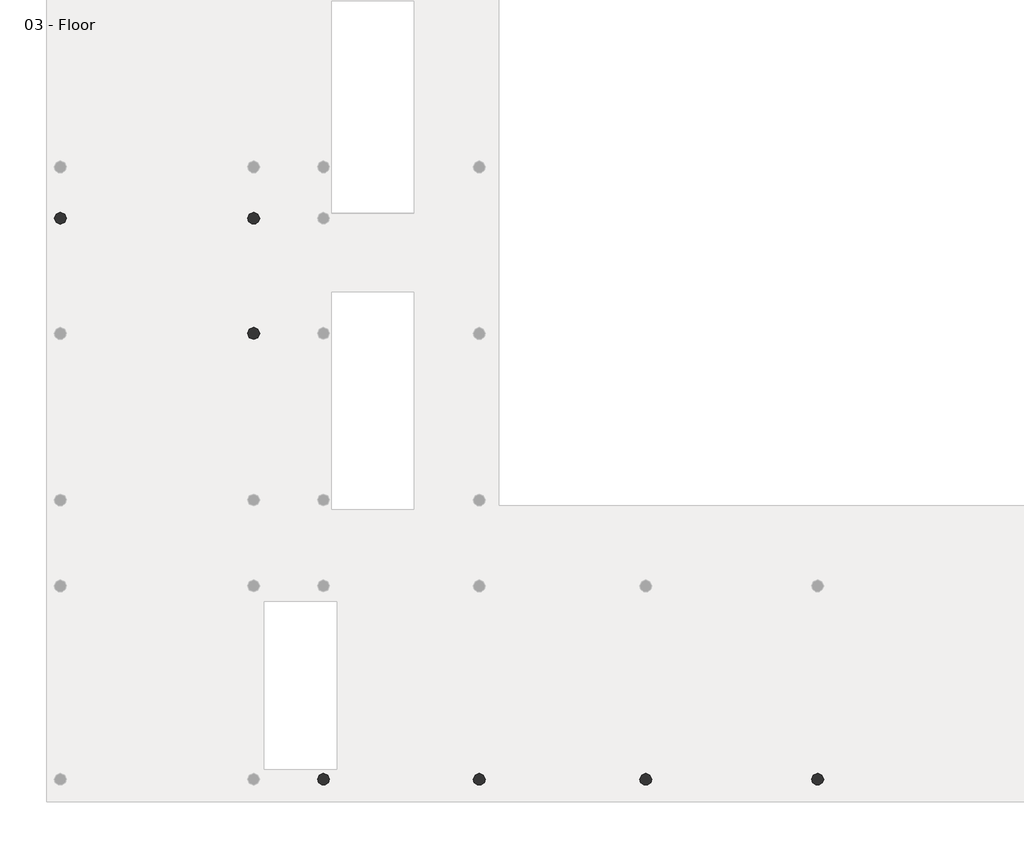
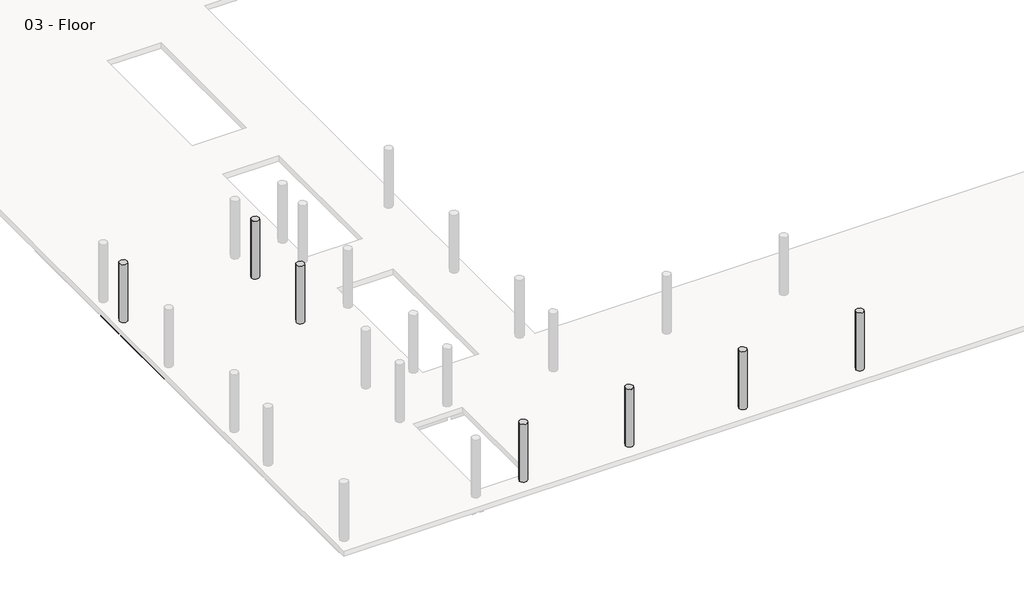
# One storey, part 2 of 8: 13 beams, 7 columns.
"""IFC4 building model written with IfcOpenShell, lengths in millimetres."""

from ifc_helpers import new_model, si_unit, point, frame, frame_2d, origin, place, context, project, spatial, polyline, circle_curve, trimmed, segment, composite_curve, outline, extrude, element, save
from ifc_brep_helpers import plane_surface, cylinder_surface, revolved_surface, advanced_brep

model = new_model("IFC4")

# Units and contexts
model_context = context("Model", 3, world=origin())
ifc_project = project(units=[si_unit("LENGTHUNIT", "METRE", prefix="MILLI")], contexts=[model_context])

# Site, building, storey
site = spatial("IfcSite", under=ifc_project)
building = spatial("IfcBuilding", under=site)
storey = spatial("IfcBuildingStorey", under=building, Name="03 - Floor", Elevation=7600.0)

# Beams
placement = place(None, origin())
element("IfcBeam", 1, ObjectType="M_Concrete-Rectangular Beam : 400 x 800mm", at=placement, inside=storey, context=model_context, shape_type="AdvancedBrep", body=[
    advanced_brep(
    [(-9401.9994416, 426.6609793, 6800.0), (-9401.9994416, -1310.2837394, 6800.0), (-9401.9994416, -1310.2837394, 7300.0), (-9401.9994416, 426.6609793, 7300.0), (-9098.921801, 329.7386199, 6800.0), (-9001.9994416, 329.7386199, 6800.0), (-9001.9994416, -1213.3613801, 6800.0), (-9001.9994416, -1310.2837394, 6800.0), (-9001.9994416, 329.7386199, 7300.0), (-9001.9994416, -1213.3613801, 7300.0), (-9001.9994416, -1310.2837394, 7300.0), (-9098.921801, 329.7386199, 7300.0)],
    [
        (0, 1),
        (1, 2),
        (2, 3),
        (3, 0),
        (0, 4, circle_curve(frame((-9201.9994416, 529.7386199, 6800.0), z_axis=(0.0, 0.0, 1.0), x_axis=(-1.0, 0.0, 0.0)), 225.0)),
        (4, 5),
        (5, 6),
        (6, 7),
        (7, 1, circle_curve(frame((-9201.9994416, -1413.3613801, 6800.0), z_axis=(0.0, 0.0, 1.0), x_axis=(-1.0, 0.0, 0.0)), 225.0)),
        (5, 8),
        (8, 9),
        (9, 10),
        (10, 7),
        (3, 11, circle_curve(frame((-9201.9994416, 529.7386199, 7300.0), z_axis=(0.0, 0.0, 1.0), x_axis=(-1.0, 0.0, 0.0)), 225.0)),
        (11, 4),
        (11, 8),
        (10, 2, circle_curve(frame((-9201.9994416, -1413.3613801, 7300.0), z_axis=(0.0, 0.0, 1.0), x_axis=(-1.0, 0.0, 0.0)), 225.0)),
    ],
    [
        plane_surface(frame((-9401.9994416, -1175.6613801, 7200.0), z_axis=(-1.0, 0.0, 0.0), x_axis=(0.0, 0.0, -1.0))),
        plane_surface(frame((-9201.9994416, -1175.6613801, 6800.0), z_axis=(0.0, 0.0, -1.0), x_axis=(1.0, 0.0, 0.0))),
        plane_surface(frame((-9001.9994416, -1175.6613801, 7200.0), z_axis=(1.0, 0.0, 0.0), x_axis=(0.0, 0.0, 1.0))),
        revolved_surface(polyline([(-9426.9994416, 529.7386199, 7300.0), (-9426.9994416, 529.7386199, 6800.0)]), (-9201.9994416, 529.7386199, 3800.0), (0.0, 0.0, 1.0)),
        plane_surface(frame((-8964.2994416, 329.7386199, 6800.0), z_axis=(0.0, 1.0, 0.0), x_axis=(1.0, 0.0, 0.0))),
        revolved_surface(polyline([(-9426.9994416, -1413.3613801, 7300.0), (-9426.9994416, -1413.3613801, 6800.0)]), (-9201.9994416, -1413.3613801, 3800.0), (0.0, 0.0, 1.0)),
        plane_surface(frame((24268.8999097, 30514.0407562, 7300.0), z_axis=(0.0, 0.0, 1.0), x_axis=(0.0, -1.0, 0.0))),
    ],
    [
        (0, [[1, 2, 3, 4]]),
        (1, [[5, 6, 7, 8, 9, -1]]),
        (2, [[-8, -7, 10, 11, 12, 13]]),
        (3, [[-5, -4, 14, 15]]),
        (4, [[-6, -15, 16, -10]]),
        (5, [[-9, -13, 17, -2]]),
        (6, [[-3, -17, -12, -11, -16, -14]]),
    ],
),
])
element("IfcBeam", 2, ObjectType="M_Concrete-Rectangular Beam : 400 x 800mm", at=placement, inside=storey, context=model_context, shape_type="AdvancedBrep", body=[
    advanced_brep(
    [(-9401.9994416, -1516.4390207, 6800.0), (-9401.9994416, -5666.3837394, 6800.0), (-9401.9994416, -5666.3837394, 7300.0), (-9401.9994416, -1516.4390207, 7300.0), (-9001.9994416, -5666.3837394, 6800.0), (-9098.921801, -1613.3613801, 6800.0), (-9001.9994416, -1613.3613801, 6800.0), (-9001.9994416, -5569.4613801, 6800.0), (-9001.9994416, -1613.3613801, 7300.0), (-9001.9994416, -5569.4613801, 7300.0), (-9001.9994416, -5666.3837394, 7300.0), (-9098.921801, -1613.3613801, 7300.0)],
    [
        (0, 1),
        (1, 2),
        (2, 3),
        (3, 0),
        (4, 1, circle_curve(frame((-9201.9994416, -5769.4613801, 6800.0), z_axis=(0.0, 0.0, 1.0), x_axis=(-1.0, 0.0, 0.0)), 225.0)),
        (0, 5, circle_curve(frame((-9201.9994416, -1413.3613801, 6800.0), z_axis=(0.0, 0.0, 1.0), x_axis=(-1.0, 0.0, 0.0)), 225.0)),
        (5, 6),
        (6, 7),
        (7, 4),
        (6, 8),
        (8, 9),
        (9, 10),
        (10, 4),
        (10, 2, circle_curve(frame((-9201.9994416, -5769.4613801, 7300.0), z_axis=(0.0, 0.0, 1.0), x_axis=(-1.0, 0.0, 0.0)), 225.0)),
        (5, 11),
        (11, 8),
        (3, 11, circle_curve(frame((-9201.9994416, -1413.3613801, 7300.0), z_axis=(0.0, 0.0, 1.0), x_axis=(-1.0, 0.0, 0.0)), 225.0)),
    ],
    [
        plane_surface(frame((-9401.9994416, -5531.7613801, 7200.0), z_axis=(-1.0, 0.0, 0.0), x_axis=(0.0, 0.0, -1.0))),
        plane_surface(frame((-9201.9994416, -5531.7613801, 6800.0), z_axis=(0.0, 0.0, -1.0), x_axis=(1.0, 0.0, 0.0))),
        plane_surface(frame((-9001.9994416, -5531.7613801, 7200.0), z_axis=(1.0, 0.0, 0.0), x_axis=(0.0, 0.0, 1.0))),
        revolved_surface(polyline([(-9426.9994416, -5769.4613801, 7300.0), (-9426.9994416, -5769.4613801, 6800.0)]), (-9201.9994416, -5769.4613801, 3800.0), (0.0, 0.0, 1.0)),
        plane_surface(frame((-8964.2994416, -1613.3613801, 6800.0), z_axis=(0.0, 1.0, 0.0), x_axis=(1.0, 0.0, 0.0))),
        revolved_surface(polyline([(-9426.9994416, -1413.3613801, 7300.0), (-9426.9994416, -1413.3613801, 6800.0)]), (-9201.9994416, -1413.3613801, 3800.0), (0.0, 0.0, 1.0)),
        plane_surface(frame((24268.8999097, 30514.0407562, 7300.0), z_axis=(0.0, 0.0, 1.0), x_axis=(0.0, -1.0, 0.0))),
    ],
    [
        (0, [[1, 2, 3, 4]]),
        (1, [[5, -1, 6, 7, 8, 9]]),
        (2, [[-9, -8, 10, 11, 12, 13]]),
        (3, [[-5, -13, 14, -2]]),
        (4, [[-7, 15, 16, -10]]),
        (5, [[-6, -4, 17, -15]]),
        (6, [[-3, -14, -12, -11, -16, -17]]),
    ],
),
])
element("IfcBeam", 3, ObjectType="M_Concrete-Rectangular Beam : 400 x 800mm", at=placement, inside=storey, context=model_context, shape_type="AdvancedBrep", body=[
    advanced_brep(
    [(6447.6005584, -15422.9390207, 6800.0), (6447.6005584, -15519.8613801, 6800.0), (6447.6005584, -22435.0613801, 6800.0), (6447.6005584, -22531.9837394, 6800.0), (6447.6005584, -22531.9837394, 7300.0), (6447.6005584, -22435.0613801, 7300.0), (6447.6005584, -15519.8613801, 7300.0), (6447.6005584, -15422.9390207, 7300.0), (6750.678199, -15519.8613801, 6800.0), (6847.6005584, -15519.8613801, 6800.0), (6847.6005584, -22435.0613801, 6800.0), (6847.6005584, -22531.9837394, 6800.0), (6847.6005584, -15519.8613801, 7300.0), (6847.6005584, -22435.0613801, 7300.0), (6847.6005584, -22531.9837394, 7300.0), (6750.678199, -15519.8613801, 7300.0)],
    [
        (0, 1),
        (1, 2),
        (2, 3),
        (3, 4),
        (4, 5),
        (5, 6),
        (6, 7),
        (7, 0),
        (0, 8, circle_curve(frame((6647.6005584, -15319.8613801, 6800.0), z_axis=(0.0, 0.0, 1.0), x_axis=(-1.0, 0.0, 0.0)), 225.0)),
        (8, 9),
        (9, 10),
        (10, 11),
        (11, 3, circle_curve(frame((6647.6005584, -22635.0613801, 6800.0), z_axis=(0.0, 0.0, 1.0), x_axis=(-1.0, 0.0, 0.0)), 225.0)),
        (9, 12),
        (12, 13),
        (13, 14),
        (14, 11),
        (7, 15, circle_curve(frame((6647.6005584, -15319.8613801, 7300.0), z_axis=(0.0, 0.0, 1.0), x_axis=(-1.0, 0.0, 0.0)), 225.0)),
        (15, 8),
        (15, 12),
        (14, 4, circle_curve(frame((6647.6005584, -22635.0613801, 7300.0), z_axis=(0.0, 0.0, 1.0), x_axis=(-1.0, 0.0, 0.0)), 225.0)),
    ],
    [
        plane_surface(frame((6447.6005584, -22397.3613801, 7600.0), z_axis=(-1.0, 0.0, 0.0), x_axis=(0.0, 1.0, 0.0))),
        plane_surface(frame((6447.6005584, -22397.3613801, 6800.0), z_axis=(0.0, 0.0, -1.0), x_axis=(0.0, 1.0, 0.0))),
        plane_surface(frame((6847.6005584, -22397.3613801, 6800.0), z_axis=(1.0, 0.0, 0.0), x_axis=(0.0, 1.0, 0.0))),
        revolved_surface(polyline([(6422.6005584, -15319.8613801, 7300.0), (6422.6005584, -15319.8613801, 6800.0)]), (6647.6005584, -15319.8613801, 3800.0), (0.0, 0.0, 1.0)),
        plane_surface(frame((6885.3005584, -15519.8613801, 7200.0), z_axis=(0.0, 1.0, 0.0), x_axis=(0.0, 0.0, 1.0))),
        revolved_surface(polyline([(6422.6005584, -22635.0613801, 7300.0), (6422.6005584, -22635.0613801, 6800.0)]), (6647.6005584, -22635.0613801, 3800.0), (0.0, 0.0, 1.0)),
        plane_surface(frame((24268.8999097, 30514.0407562, 7300.0), z_axis=(0.0, 0.0, 1.0), x_axis=(0.0, -1.0, 0.0))),
    ],
    [
        (0, [[1, 2, 3, 4, 5, 6, 7, 8]]),
        (1, [[9, 10, 11, 12, 13, -3, -2, -1]]),
        (2, [[-12, -11, 14, 15, 16, 17]]),
        (3, [[-9, -8, 18, 19]]),
        (4, [[-10, -19, 20, -14]]),
        (5, [[-13, -17, 21, -4]]),
        (6, [[-7, -6, -5, -21, -16, -15, -20, -18]]),
    ],
),
])
element("IfcBeam", 4, ObjectType="M_Concrete-Rectangular Beam : 400 x 800mm", at=placement, inside=storey, context=model_context, shape_type="AdvancedBrep", body=[
    advanced_brep(
    [(12746.8005584, -15422.9390207, 6800.0), (12746.8005584, -15519.8613801, 6800.0), (12746.8005584, -22435.0613801, 6800.0), (12746.8005584, -22531.9837394, 6800.0), (12746.8005584, -22531.9837394, 7300.0), (12746.8005584, -22435.0613801, 7300.0), (12746.8005584, -15519.8613801, 7300.0), (12746.8005584, -15422.9390207, 7300.0), (13146.8005584, -15422.9390207, 6800.0), (13146.8005584, -15519.8613801, 6800.0), (13146.8005584, -22435.0613801, 6800.0), (13146.8005584, -22531.9837394, 6800.0), (13146.8005584, -15422.9390207, 7300.0), (13146.8005584, -15519.8613801, 7300.0), (13146.8005584, -22435.0613801, 7300.0), (13146.8005584, -22531.9837394, 7300.0)],
    [
        (0, 1),
        (1, 2),
        (2, 3),
        (3, 4),
        (4, 5),
        (5, 6),
        (6, 7),
        (7, 0),
        (0, 8, circle_curve(frame((12946.8005584, -15319.8613801, 6800.0), z_axis=(0.0, 0.0, 1.0), x_axis=(-1.0, 0.0, 0.0)), 225.0)),
        (8, 9),
        (9, 10),
        (10, 11),
        (11, 3, circle_curve(frame((12946.8005584, -22635.0613801, 6800.0), z_axis=(0.0, 0.0, 1.0), x_axis=(-1.0, 0.0, 0.0)), 225.0)),
        (8, 12),
        (12, 13),
        (13, 14),
        (14, 15),
        (15, 11),
        (7, 12, circle_curve(frame((12946.8005584, -15319.8613801, 7300.0), z_axis=(0.0, 0.0, 1.0), x_axis=(-1.0, 0.0, 0.0)), 225.0)),
        (15, 4, circle_curve(frame((12946.8005584, -22635.0613801, 7300.0), z_axis=(0.0, 0.0, 1.0), x_axis=(-1.0, 0.0, 0.0)), 225.0)),
    ],
    [
        plane_surface(frame((12746.8005584, -22397.3613801, 7600.0), z_axis=(-1.0, 0.0, 0.0), x_axis=(0.0, 1.0, 0.0))),
        plane_surface(frame((12746.8005584, -22397.3613801, 6800.0), z_axis=(0.0, 0.0, -1.0), x_axis=(0.0, 1.0, 0.0))),
        plane_surface(frame((13146.8005584, -22397.3613801, 6800.0), z_axis=(1.0, 0.0, 0.0), x_axis=(0.0, 1.0, 0.0))),
        revolved_surface(polyline([(12721.8005584, -15319.8613801, 7300.0), (12721.8005584, -15319.8613801, 6800.0)]), (12946.8005584, -15319.8613801, 3800.0), (0.0, 0.0, 1.0)),
        revolved_surface(polyline([(12721.8005584, -22635.0613801, 7300.0), (12721.8005584, -22635.0613801, 6800.0)]), (12946.8005584, -22635.0613801, 3800.0), (0.0, 0.0, 1.0)),
        plane_surface(frame((24268.8999097, 30514.0407562, 7300.0), z_axis=(0.0, 0.0, 1.0), x_axis=(0.0, -1.0, 0.0))),
    ],
    [
        (0, [[1, 2, 3, 4, 5, 6, 7, 8]]),
        (1, [[9, 10, 11, 12, 13, -3, -2, -1]]),
        (2, [[-12, -11, -10, 14, 15, 16, 17, 18]]),
        (3, [[-9, -8, 19, -14]]),
        (4, [[-13, -18, 20, -4]]),
        (5, [[-7, -6, -5, -20, -17, -16, -15, -19]]),
    ],
),
])
element("IfcBeam", 5, ObjectType="M_Concrete-Rectangular Beam : 400 x 800mm", at=placement, inside=storey, context=model_context, shape_type="AdvancedBrep", body=[
    advanced_brep(
    [(554.8005584, -5569.4613801, 6800.0), (-1586.7994416, -5569.4613801, 6800.0), (-1586.7994416, -5569.4613801, 7300.0), (554.8005584, -5569.4613801, 7300.0), (554.8005584, -5666.3837394, 6800.0), (529.8005584, -5769.4613801, 6800.0), (651.7229178, -5969.4613801, 6800.0), (554.8005584, -5969.4613801, 6800.0), (-1586.7994416, -5969.4613801, 6800.0), (651.7229178, -5969.4613801, 7300.0), (554.8005584, -5969.4613801, 7300.0), (-1586.7994416, -5969.4613801, 7300.0), (554.8005584, -5666.3837394, 7300.0), (529.8005584, -5769.4613801, 7300.0)],
    [
        (0, 1),
        (1, 2),
        (2, 3),
        (3, 0),
        (0, 4),
        (4, 5, circle_curve(frame((754.8005584, -5769.4613801, 6800.0), z_axis=(0.0, 0.0, 1.0), x_axis=(-1.0, 0.0, 0.0)), 225.0)),
        (5, 6, circle_curve(frame((754.8005584, -5769.4613801, 6800.0), z_axis=(0.0, 0.0, 1.0), x_axis=(-1.0, 0.0, 0.0)), 225.0)),
        (6, 7),
        (7, 8),
        (8, 1),
        (6, 9),
        (9, 10),
        (10, 11),
        (11, 8),
        (3, 12),
        (12, 4),
        (5, 13),
        (13, 9, circle_curve(frame((754.8005584, -5769.4613801, 7300.0), z_axis=(0.0, 0.0, 1.0), x_axis=(-1.0, 0.0, 0.0)), 225.0)),
        (12, 13, circle_curve(frame((754.8005584, -5769.4613801, 7300.0), z_axis=(0.0, 0.0, 1.0), x_axis=(-1.0, 0.0, 0.0)), 225.0)),
        (11, 2),
    ],
    [
        plane_surface(frame((-1649.0994416, -5569.4613801, 7200.0), z_axis=(0.0, 1.0, 0.0), x_axis=(0.0, 0.0, -1.0))),
        plane_surface(frame((-1649.0994416, -5769.4613801, 6800.0), z_axis=(0.0, 0.0, -1.0), x_axis=(0.0, -1.0, 0.0))),
        plane_surface(frame((-1649.0994416, -5969.4613801, 7200.0), z_axis=(0.0, -1.0, 0.0), x_axis=(0.0, 0.0, 1.0))),
        plane_surface(frame((554.8005584, -5531.7613801, 7200.0), z_axis=(1.0, 0.0, 0.0), x_axis=(0.0, 0.0, -1.0))),
        revolved_surface(polyline([(529.8005584, -5769.4613801, 7300.0), (529.8005584, -5769.4613801, 6800.0)]), (754.8005584, -5769.4613801, 3800.0), (0.0, 0.0, 1.0)),
        plane_surface(frame((-1586.7994416, -5531.7613801, 7150.0), z_axis=(-1.0, 0.0, 0.0), x_axis=(0.0, 0.0, 1.0))),
        plane_surface(frame((24268.8999097, 30514.0407562, 7300.0), z_axis=(0.0, 0.0, 1.0), x_axis=(0.0, -1.0, 0.0))),
    ],
    [
        (0, [[1, 2, 3, 4]]),
        (1, [[5, 6, 7, 8, 9, 10, -1]]),
        (2, [[-9, -8, 11, 12, 13, 14]]),
        (3, [[-5, -4, 15, 16]]),
        (4, [[-7, 17, 18, -11]]),
        (4, [[-6, -16, 19, -17]]),
        (5, [[-10, -14, 20, -2]]),
        (6, [[-3, -20, -13, -12, -18, -19, -15]]),
    ],
),
])
element("IfcBeam", 6, ObjectType="M_Concrete-Rectangular Beam : 400 x 800mm", at=placement, inside=storey, context=model_context, shape_type="AdvancedBrep", body=[
    advanced_brep(
    [(-2186.7994416, -5569.4613801, 6800.0), (-9001.9994416, -5569.4613801, 6800.0), (-9001.9994416, -5569.4613801, 7300.0), (-2186.7994416, -5569.4613801, 7300.0), (-9001.9994416, -5666.3837394, 6800.0), (-2186.7994416, -5969.4613801, 6800.0), (-3515.5994416, -5969.4613801, 6800.0), (-3915.5994416, -5969.4613801, 6800.0), (-5344.3994416, -5969.4613801, 6800.0), (-5744.3994416, -5969.4613801, 6800.0), (-7173.1994416, -5969.4613801, 6800.0), (-7573.1994416, -5969.4613801, 6800.0), (-9001.9994416, -5969.4613801, 6800.0), (-9098.921801, -5969.4613801, 6800.0), (-8976.9994416, -5769.4613801, 6800.0), (-2186.7994416, -5969.4613801, 7300.0), (-3515.5994416, -5969.4613801, 7300.0), (-3915.5994416, -5969.4613801, 7300.0), (-5344.3994416, -5969.4613801, 7300.0), (-5744.3994416, -5969.4613801, 7300.0), (-7173.1994416, -5969.4613801, 7300.0), (-7573.1994416, -5969.4613801, 7300.0), (-9001.9994416, -5969.4613801, 7300.0), (-9098.921801, -5969.4613801, 7300.0), (-9001.9994416, -5666.3837394, 7300.0), (-8976.9994416, -5769.4613801, 7300.0)],
    [
        (0, 1),
        (1, 2),
        (2, 3),
        (3, 0),
        (4, 1),
        (0, 5),
        (5, 6),
        (6, 7),
        (7, 8),
        (8, 9),
        (9, 10),
        (10, 11),
        (11, 12),
        (12, 13),
        (13, 14, circle_curve(frame((-9201.9994416, -5769.4613801, 6800.0), z_axis=(0.0, 0.0, 1.0), x_axis=(-1.0, 0.0, 0.0)), 225.0)),
        (14, 4, circle_curve(frame((-9201.9994416, -5769.4613801, 6800.0), z_axis=(0.0, 0.0, 1.0), x_axis=(-1.0, 0.0, 0.0)), 225.0)),
        (5, 15),
        (15, 16),
        (16, 17),
        (17, 18),
        (18, 19),
        (19, 20),
        (20, 21),
        (21, 22),
        (22, 23),
        (23, 13),
        (4, 24),
        (24, 2),
        (23, 25, circle_curve(frame((-9201.9994416, -5769.4613801, 7300.0), z_axis=(0.0, 0.0, 1.0), x_axis=(-1.0, 0.0, 0.0)), 225.0)),
        (25, 14),
        (25, 24, circle_curve(frame((-9201.9994416, -5769.4613801, 7300.0), z_axis=(0.0, 0.0, 1.0), x_axis=(-1.0, 0.0, 0.0)), 225.0)),
        (3, 15),
    ],
    [
        plane_surface(frame((-8964.2994416, -5569.4613801, 7600.0), z_axis=(0.0, 1.0, 0.0), x_axis=(1.0, 0.0, 0.0))),
        plane_surface(frame((-8964.2994416, -5569.4613801, 6800.0), z_axis=(0.0, 0.0, -1.0), x_axis=(1.0, 0.0, 0.0))),
        plane_surface(frame((-8964.2994416, -5969.4613801, 6800.0), z_axis=(0.0, -1.0, 0.0), x_axis=(1.0, 0.0, 0.0))),
        plane_surface(frame((-9001.9994416, -5531.7613801, 7200.0), z_axis=(-1.0, 0.0, 0.0), x_axis=(0.0, 0.0, 1.0))),
        revolved_surface(polyline([(-9426.9994416, -5769.4613801, 7300.0), (-9426.9994416, -5769.4613801, 6800.0)]), (-9201.9994416, -5769.4613801, 3800.0), (0.0, 0.0, 1.0)),
        plane_surface(frame((-2186.7994416, -5545.5322965, 6700.0), z_axis=(1.0, 0.0, 0.0), x_axis=(0.0, -1.0, 0.0))),
        plane_surface(frame((24268.8999097, 30514.0407562, 7300.0), z_axis=(0.0, 0.0, 1.0), x_axis=(0.0, -1.0, 0.0))),
    ],
    [
        (0, [[1, 2, 3, 4]]),
        (1, [[5, -1, 6, 7, 8, 9, 10, 11, 12, 13, 14, 15, 16]]),
        (2, [[-14, -13, -12, -11, -10, -9, -8, -7, 17, 18, 19, 20, 21, 22, 23, 24, 25, 26]]),
        (3, [[-5, 27, 28, -2]]),
        (4, [[-15, -26, 29, 30]]),
        (4, [[-16, -30, 31, -27]]),
        (5, [[-6, -4, 32, -17]]),
        (6, [[-3, -28, -31, -29, -25, -24, -23, -22, -21, -20, -19, -18, -32]]),
    ],
),
])
element("IfcBeam", 7, ObjectType="M_Concrete-Rectangular Beam : 400 x 800mm", at=placement, inside=storey, context=model_context, shape_type="SweptSolid", body=[
    extrude(outline(composite_curve([segment(polyline([(13146.8005584, -22531.9837394), (13146.8005584, -22435.0613801), (19249.2005584, -22435.0613801), (19249.2005584, -22531.9837394)]), True, "CONTINUOUS"), segment(trimmed(circle_curve(frame_2d((19449.2005584, -22635.0613801)), 225.0), [point((19249.2005584, -22531.9837394))], [point((19224.2005584, -22635.0613801))], True, "CARTESIAN"), True, "CONTINUOUS"), segment(trimmed(circle_curve(frame_2d((19449.2005584, -22635.0613801)), 225.0), [point((19224.2005584, -22635.0613801))], [point((19346.1229178, -22835.0613801))], True, "CARTESIAN"), True, "CONTINUOUS"), segment(polyline([(19346.1229178, -22835.0613801), (13049.878199, -22835.0613801)]), True, "CONTINUOUS"), segment(trimmed(circle_curve(frame_2d((12946.8005584, -22635.0613801)), 225.0), [point((13049.878199, -22835.0613801))], [point((13171.8005584, -22635.0613801))], True, "CARTESIAN"), True, "CONTINUOUS"), segment(trimmed(circle_curve(frame_2d((12946.8005584, -22635.0613801)), 225.0), [point((13171.8005584, -22635.0613801))], [point((13146.8005584, -22531.9837394))], True, "CARTESIAN"), True, "CONTINUOUS")], self_intersect=False)), frame((0.0, 0.0, 6800.0), z_axis=(0.0, 0.0, 1.0), x_axis=(1.0, 0.0, 0.0)), (0.0, 0.0, 1.0), 500.0),
])
element("IfcBeam", 8, ObjectType="M_Concrete-Rectangular Beam : 400 x 800mm", at=placement, inside=storey, context=model_context, shape_type="SweptSolid", body=[
    extrude(outline(composite_curve([segment(polyline([(6847.6005584, -22531.9837394), (6847.6005584, -22435.0613801), (12746.8005584, -22435.0613801), (12746.8005584, -22531.9837394)]), True, "CONTINUOUS"), segment(trimmed(circle_curve(frame_2d((12946.8005584, -22635.0613801)), 225.0), [point((12746.8005584, -22531.9837394))], [point((12721.8005584, -22635.0613801))], True, "CARTESIAN"), True, "CONTINUOUS"), segment(trimmed(circle_curve(frame_2d((12946.8005584, -22635.0613801)), 225.0), [point((12721.8005584, -22635.0613801))], [point((12843.7229178, -22835.0613801))], True, "CARTESIAN"), True, "CONTINUOUS"), segment(polyline([(12843.7229178, -22835.0613801), (6750.678199, -22835.0613801)]), True, "CONTINUOUS"), segment(trimmed(circle_curve(frame_2d((6647.6005584, -22635.0613801)), 225.0), [point((6750.678199, -22835.0613801))], [point((6872.6005584, -22635.0613801))], True, "CARTESIAN"), True, "CONTINUOUS"), segment(trimmed(circle_curve(frame_2d((6647.6005584, -22635.0613801)), 225.0), [point((6872.6005584, -22635.0613801))], [point((6847.6005584, -22531.9837394))], True, "CARTESIAN"), True, "CONTINUOUS")], self_intersect=False)), frame((0.0, 0.0, 6800.0), z_axis=(0.0, 0.0, 1.0), x_axis=(1.0, 0.0, 0.0)), (0.0, 0.0, 1.0), 500.0),
])
element("IfcBeam", 9, ObjectType="M_Concrete-Rectangular Beam : 400 x 800mm", at=placement, inside=storey, context=model_context, shape_type="SweptSolid", body=[
    extrude(outline(composite_curve([segment(polyline([(6447.6005584, -22435.0613801), (6447.6005584, -22531.9837394)]), True, "CONTINUOUS"), segment(trimmed(circle_curve(frame_2d((6647.6005584, -22635.0613801)), 225.0), [point((6447.6005584, -22531.9837394))], [point((6422.6005584, -22635.0613801))], True, "CARTESIAN"), True, "CONTINUOUS"), segment(trimmed(circle_curve(frame_2d((6647.6005584, -22635.0613801)), 225.0), [point((6422.6005584, -22635.0613801))], [point((6544.5229178, -22835.0613801))], True, "CARTESIAN"), True, "CONTINUOUS"), segment(polyline([(6544.5229178, -22835.0613801), (857.878199, -22835.0613801)]), True, "CONTINUOUS"), segment(trimmed(circle_curve(frame_2d((754.8005584, -22635.0613801)), 225.0), [point((857.878199, -22835.0613801))], [point((979.8005584, -22635.0613801))], True, "CARTESIAN"), True, "CONTINUOUS"), segment(trimmed(circle_curve(frame_2d((754.8005584, -22635.0613801)), 225.0), [point((979.8005584, -22635.0613801))], [point((857.878199, -22435.0613801))], True, "CARTESIAN"), True, "CONTINUOUS"), segment(polyline([(857.878199, -22435.0613801), (6447.6005584, -22435.0613801)]), True, "CONTINUOUS")], self_intersect=False)), frame((0.0, 0.0, 6800.0), z_axis=(0.0, 0.0, 1.0), x_axis=(1.0, 0.0, 0.0)), (0.0, 0.0, 1.0), 500.0),
    extrude(outline(composite_curve([segment(polyline([(-1586.7994416, -22835.0613801), (-1586.7994416, -22435.0613801), (651.7229178, -22435.0613801)]), True, "CONTINUOUS"), segment(trimmed(circle_curve(frame_2d((754.8005584, -22635.0613801)), 225.0), [point((651.7229178, -22435.0613801))], [point((529.8005584, -22635.0613801))], True, "CARTESIAN"), True, "CONTINUOUS"), segment(trimmed(circle_curve(frame_2d((754.8005584, -22635.0613801)), 225.0), [point((529.8005584, -22635.0613801))], [point((651.7229178, -22835.0613801))], True, "CARTESIAN"), True, "CONTINUOUS"), segment(polyline([(651.7229178, -22835.0613801), (-1586.7994416, -22835.0613801)]), True, "CONTINUOUS")], self_intersect=False)), frame((0.0, 0.0, 6800.0), z_axis=(0.0, 0.0, 1.0), x_axis=(1.0, 0.0, 0.0)), (0.0, 0.0, 1.0), 500.0),
])
element("IfcBeam", 10, ObjectType="M_Concrete-Rectangular Beam : 400 x 800mm", at=placement, inside=storey, context=model_context, shape_type="SweptSolid", body=[
    extrude(outline(composite_curve([segment(trimmed(circle_curve(frame_2d((754.8005584, -1413.3613801)), 225.0), [point((529.8005584, -1413.3613801))], [point((554.8005584, -1516.4390207))], True, "CARTESIAN"), True, "CONTINUOUS"), segment(polyline([(554.8005584, -1516.4390207), (554.8005584, -1613.3613801), (-1586.7994416, -1613.3613801), (-1586.7994416, -1213.3613801), (554.8005584, -1213.3613801), (554.8005584, -1310.2837394)]), True, "CONTINUOUS"), segment(trimmed(circle_curve(frame_2d((754.8005584, -1413.3613801)), 225.0), [point((554.8005584, -1310.2837394))], [point((529.8005584, -1413.3613801))], True, "CARTESIAN"), True, "CONTINUOUS")], self_intersect=False)), frame((0.0, 0.0, 6800.0), z_axis=(0.0, 0.0, 1.0), x_axis=(1.0, 0.0, 0.0)), (0.0, 0.0, 1.0), 500.0),
])
element("IfcBeam", 11, ObjectType="M_Concrete-Rectangular Beam : 400 x 800mm", at=placement, inside=storey, context=model_context, shape_type="AdvancedBrep", body=[
    advanced_brep(
    [(-2186.7994416, -1213.3613801, 6800.0), (-9001.9994416, -1213.3613801, 6800.0), (-9001.9994416, -1213.3613801, 7300.0), (-2186.7994416, -1213.3613801, 7300.0), (-9098.921801, -1613.3613801, 6800.0), (-8976.9994416, -1413.3613801, 6800.0), (-9001.9994416, -1310.2837394, 6800.0), (-2186.7994416, -1613.3613801, 6800.0), (-9001.9994416, -1613.3613801, 6800.0), (-2186.7994416, -1613.3613801, 7300.0), (-9001.9994416, -1613.3613801, 7300.0), (-9098.921801, -1613.3613801, 7300.0), (-8976.9994416, -1413.3613801, 7300.0), (-9001.9994416, -1310.2837394, 7300.0)],
    [
        (0, 1),
        (1, 2),
        (2, 3),
        (3, 0),
        (4, 5, circle_curve(frame((-9201.9994416, -1413.3613801, 6800.0), z_axis=(0.0, 0.0, 1.0), x_axis=(-1.0, 0.0, 0.0)), 225.0)),
        (5, 6, circle_curve(frame((-9201.9994416, -1413.3613801, 6800.0), z_axis=(0.0, 0.0, 1.0), x_axis=(-1.0, 0.0, 0.0)), 225.0)),
        (6, 1),
        (0, 7),
        (7, 8),
        (8, 4),
        (7, 9),
        (9, 10),
        (10, 11),
        (11, 4),
        (11, 12, circle_curve(frame((-9201.9994416, -1413.3613801, 7300.0), z_axis=(0.0, 0.0, 1.0), x_axis=(-1.0, 0.0, 0.0)), 225.0)),
        (12, 5),
        (12, 13, circle_curve(frame((-9201.9994416, -1413.3613801, 7300.0), z_axis=(0.0, 0.0, 1.0), x_axis=(-1.0, 0.0, 0.0)), 225.0)),
        (13, 6),
        (13, 2),
        (3, 9),
    ],
    [
        plane_surface(frame((-8964.2994416, -1213.3613801, 7600.0), z_axis=(0.0, 1.0, 0.0), x_axis=(1.0, 0.0, 0.0))),
        plane_surface(frame((-8964.2994416, -1213.3613801, 6800.0), z_axis=(0.0, 0.0, -1.0), x_axis=(1.0, 0.0, 0.0))),
        plane_surface(frame((-8964.2994416, -1613.3613801, 6800.0), z_axis=(0.0, -1.0, 0.0), x_axis=(1.0, 0.0, 0.0))),
        revolved_surface(polyline([(-9426.9994416, -1413.3613801, 7300.0), (-9426.9994416, -1413.3613801, 6800.0)]), (-9201.9994416, -1413.3613801, 3800.0), (0.0, 0.0, 1.0)),
        plane_surface(frame((-9001.9994416, -1175.6613801, 7200.0), z_axis=(-1.0, 0.0, 0.0), x_axis=(0.0, 0.0, 1.0))),
        plane_surface(frame((-2186.7994416, -5531.7613801, 7150.0), z_axis=(1.0, 0.0, 0.0), x_axis=(0.0, 0.0, -1.0))),
        plane_surface(frame((24268.8999097, 30514.0407562, 7300.0), z_axis=(0.0, 0.0, 1.0), x_axis=(0.0, -1.0, 0.0))),
    ],
    [
        (0, [[1, 2, 3, 4]]),
        (1, [[5, 6, 7, -1, 8, 9, 10]]),
        (2, [[-10, -9, 11, 12, 13, 14]]),
        (3, [[-5, -14, 15, 16]]),
        (3, [[-6, -16, 17, 18]]),
        (4, [[-7, -18, 19, -2]]),
        (5, [[-8, -4, 20, -11]]),
        (6, [[-3, -19, -17, -15, -13, -12, -20]]),
    ],
),
])
element("IfcBeam", 12, ObjectType="M_Concrete-Rectangular Beam : 600 x 900", at=placement, inside=storey, context=model_context, shape_type="AdvancedBrep", body=[
    advanced_brep(
    [(-2186.7994416, 329.7386199, 6700.0), (-2186.7994416, -1613.3613801, 6700.0), (-2186.7994416, -1613.3613801, 6800.0), (-2186.7994416, -1613.3613801, 7300.0), (-2186.7994416, -1213.3613801, 7300.0), (-2186.7994416, 329.7386199, 7300.0), (-1989.8770822, 329.7386199, 6700.0), (-1783.721801, 329.7386199, 6700.0), (-1586.7994416, 329.7386199, 6700.0), (-1586.7994416, -1613.3613801, 6700.0), (-1783.721801, -1613.3613801, 6700.0), (-1661.7994416, -1413.3613801, 6700.0), (-2111.7994416, -1413.3613801, 6700.0), (-1989.8770822, -1613.3613801, 6700.0), (-1586.7994416, 329.7386199, 7300.0), (-1586.7994416, -1213.3613801, 7300.0), (-1586.7994416, -1613.3613801, 7300.0), (-1586.7994416, -1613.3613801, 6800.0), (-1783.721801, -1613.3613801, 7300.0), (-1783.721801, 329.7386199, 7300.0), (-1989.8770822, 329.7386199, 7300.0), (-2111.7994416, -1413.3613801, 7300.0), (-1989.8770822, -1613.3613801, 7300.0), (-1661.7994416, -1413.3613801, 7300.0)],
    [
        (0, 1),
        (1, 2),
        (2, 3),
        (3, 4),
        (4, 5),
        (5, 0),
        (0, 6),
        (6, 7, circle_curve(frame((-1886.7994416, 529.7386199, 6700.0), z_axis=(0.0, 0.0, 1.0), x_axis=(-1.0, 0.0, 0.0)), 225.0)),
        (7, 8),
        (8, 9),
        (9, 10),
        (10, 11, circle_curve(frame((-1886.7994416, -1413.3613801, 6700.0), z_axis=(0.0, 0.0, 1.0), x_axis=(-1.0, 0.0, 0.0)), 225.0)),
        (11, 12, circle_curve(frame((-1886.7994416, -1413.3613801, 6700.0), z_axis=(0.0, 0.0, 1.0), x_axis=(-1.0, 0.0, 0.0)), 225.0)),
        (12, 13, circle_curve(frame((-1886.7994416, -1413.3613801, 6700.0), z_axis=(0.0, 0.0, 1.0), x_axis=(-1.0, 0.0, 0.0)), 225.0)),
        (13, 1),
        (8, 14),
        (14, 15),
        (15, 16),
        (16, 17),
        (17, 9),
        (16, 18),
        (18, 10),
        (7, 19),
        (19, 14),
        (6, 20),
        (20, 19, circle_curve(frame((-1886.7994416, 529.7386199, 7300.0), z_axis=(0.0, 0.0, 1.0), x_axis=(-1.0, 0.0, 0.0)), 225.0)),
        (5, 20),
        (12, 21),
        (21, 22, circle_curve(frame((-1886.7994416, -1413.3613801, 7300.0), z_axis=(0.0, 0.0, 1.0), x_axis=(-1.0, 0.0, 0.0)), 225.0)),
        (22, 13),
        (11, 23),
        (23, 21, circle_curve(frame((-1886.7994416, -1413.3613801, 7300.0), z_axis=(0.0, 0.0, 1.0), x_axis=(-1.0, 0.0, 0.0)), 225.0)),
        (22, 3),
        (18, 23, circle_curve(frame((-1886.7994416, -1413.3613801, 7300.0), z_axis=(0.0, 0.0, 1.0), x_axis=(-1.0, 0.0, 0.0)), 225.0)),
    ],
    [
        plane_surface(frame((-2186.7994416, -1175.6613801, 7150.0), z_axis=(-1.0, 0.0, 0.0), x_axis=(0.0, 0.0, -1.0))),
        plane_surface(frame((-1886.7994416, -1175.6613801, 6700.0), z_axis=(0.0, 0.0, -1.0), x_axis=(1.0, 0.0, 0.0))),
        plane_surface(frame((-1586.7994416, -1175.6613801, 7150.0), z_axis=(1.0, 0.0, 0.0), x_axis=(0.0, 0.0, 1.0))),
        plane_surface(frame((-1562.8703581, -1613.3613801, 7600.0), z_axis=(0.0, -1.0, 0.0), x_axis=(-1.0, 0.0, 0.0))),
        plane_surface(frame((-1649.0994416, 329.7386199, 7200.0), z_axis=(0.0, 1.0, 0.0), x_axis=(0.0, 0.0, 1.0))),
        revolved_surface(polyline([(-2111.7994416, 529.7386199, 7300.0), (-2111.7994416, 529.7386199, 6700.0)]), (-1886.7994416, 529.7386199, 3800.0), (0.0, 0.0, 1.0)),
        revolved_surface(polyline([(-2111.7994416, -1413.3613801, 7300.0), (-2111.7994416, -1413.3613801, 6700.0)]), (-1886.7994416, -1413.3613801, 3800.0), (0.0, 0.0, 1.0)),
        plane_surface(frame((24268.8999097, 30514.0407562, 7300.0), z_axis=(0.0, 0.0, 1.0), x_axis=(0.0, -1.0, 0.0))),
    ],
    [
        (0, [[1, 2, 3, 4, 5, 6]]),
        (1, [[-1, 7, 8, 9, 10, 11, 12, 13, 14, 15]]),
        (2, [[-10, 16, 17, 18, 19, 20]]),
        (3, [[-11, -20, -19, 21, 22]]),
        (4, [[-9, 23, 24, -16]]),
        (5, [[-8, 25, 26, -23]]),
        (4, [[-7, -6, 27, -25]]),
        (6, [[-14, 28, 29, 30]]),
        (6, [[-13, 31, 32, -28]]),
        (3, [[-15, -30, 33, -3, -2]]),
        (6, [[-12, -22, 34, -31]]),
        (7, [[-5, -4, -33, -29, -32, -34, -21, -18, -17, -24, -26, -27]]),
    ],
),
])
element("IfcBeam", 13, ObjectType="M_Concrete-Rectangular Beam : 600 x 900", at=placement, inside=storey, context=model_context, shape_type="AdvancedBrep", body=[
    advanced_brep(
    [(-2186.7994416, -1613.3613801, 6700.0), (-2186.7994416, -5969.4613801, 6700.0), (-2186.7994416, -5969.4613801, 6800.0), (-2186.7994416, -5969.4613801, 7300.0), (-2186.7994416, -5569.4613801, 7300.0), (-2186.7994416, -1613.3613801, 7300.0), (-1989.8770822, -5969.4613801, 6700.0), (-1989.8770822, -1613.3613801, 6700.0), (-1783.721801, -1613.3613801, 6700.0), (-1586.7994416, -1613.3613801, 6700.0), (-1586.7994416, -5969.4613801, 6700.0), (-1783.721801, -5969.4613801, 6700.0), (-1661.7994416, -5769.4613801, 6700.0), (-2111.7994416, -5769.4613801, 6700.0), (-1586.7994416, -1613.3613801, 7300.0), (-1586.7994416, -5569.4613801, 7300.0), (-1586.7994416, -5969.4613801, 7300.0), (-1586.7994416, -5969.4613801, 6800.0), (-1783.721801, -5969.4613801, 7300.0), (-2111.7994416, -5769.4613801, 7300.0), (-1989.8770822, -5969.4613801, 7300.0), (-1661.7994416, -5769.4613801, 7300.0), (-1989.8770822, -1613.3613801, 7300.0), (-1783.721801, -1613.3613801, 7300.0)],
    [
        (0, 1),
        (1, 2),
        (2, 3),
        (3, 4),
        (4, 5),
        (5, 0),
        (6, 1),
        (0, 7),
        (7, 8, circle_curve(frame((-1886.7994416, -1413.3613801, 6700.0), z_axis=(0.0, 0.0, 1.0), x_axis=(-1.0, 0.0, 0.0)), 225.0)),
        (8, 9),
        (9, 10),
        (10, 11),
        (11, 12, circle_curve(frame((-1886.7994416, -5769.4613801, 6700.0), z_axis=(0.0, 0.0, 1.0), x_axis=(-1.0, 0.0, 0.0)), 225.0)),
        (12, 13, circle_curve(frame((-1886.7994416, -5769.4613801, 6700.0), z_axis=(0.0, 0.0, 1.0), x_axis=(-1.0, 0.0, 0.0)), 225.0)),
        (13, 6, circle_curve(frame((-1886.7994416, -5769.4613801, 6700.0), z_axis=(0.0, 0.0, 1.0), x_axis=(-1.0, 0.0, 0.0)), 225.0)),
        (9, 14),
        (14, 15),
        (15, 16),
        (16, 17),
        (17, 10),
        (16, 18),
        (18, 11),
        (13, 19),
        (19, 20, circle_curve(frame((-1886.7994416, -5769.4613801, 7300.0), z_axis=(0.0, 0.0, 1.0), x_axis=(-1.0, 0.0, 0.0)), 225.0)),
        (20, 6),
        (12, 21),
        (21, 19, circle_curve(frame((-1886.7994416, -5769.4613801, 7300.0), z_axis=(0.0, 0.0, 1.0), x_axis=(-1.0, 0.0, 0.0)), 225.0)),
        (20, 3),
        (18, 21, circle_curve(frame((-1886.7994416, -5769.4613801, 7300.0), z_axis=(0.0, 0.0, 1.0), x_axis=(-1.0, 0.0, 0.0)), 225.0)),
        (7, 22),
        (22, 23, circle_curve(frame((-1886.7994416, -1413.3613801, 7300.0), z_axis=(0.0, 0.0, 1.0), x_axis=(-1.0, 0.0, 0.0)), 225.0)),
        (23, 8),
        (23, 14),
        (5, 22),
    ],
    [
        plane_surface(frame((-2186.7994416, -5531.7613801, 7150.0), z_axis=(-1.0, 0.0, 0.0), x_axis=(0.0, 0.0, -1.0))),
        plane_surface(frame((-1886.7994416, -5531.7613801, 6700.0), z_axis=(0.0, 0.0, -1.0), x_axis=(1.0, 0.0, 0.0))),
        plane_surface(frame((-1586.7994416, -5531.7613801, 7150.0), z_axis=(1.0, 0.0, 0.0), x_axis=(0.0, 0.0, 1.0))),
        plane_surface(frame((-1562.8703581, -5969.4613801, 7600.0), z_axis=(0.0, -1.0, 0.0), x_axis=(-1.0, 0.0, 0.0))),
        revolved_surface(polyline([(-2111.7994416, -5769.4613801, 7300.0), (-2111.7994416, -5769.4613801, 6700.0)]), (-1886.7994416, -5769.4613801, 3800.0), (0.0, 0.0, 1.0)),
        revolved_surface(polyline([(-2111.7994416, -1413.3613801, 7300.0), (-2111.7994416, -1413.3613801, 6700.0)]), (-1886.7994416, -1413.3613801, 3800.0), (0.0, 0.0, 1.0)),
        plane_surface(frame((-1649.0994416, -1613.3613801, 7200.0), z_axis=(0.0, 1.0, 0.0), x_axis=(0.0, 0.0, 1.0))),
        plane_surface(frame((24268.8999097, 30514.0407562, 7300.0), z_axis=(0.0, 0.0, 1.0), x_axis=(0.0, -1.0, 0.0))),
    ],
    [
        (0, [[1, 2, 3, 4, 5, 6]]),
        (1, [[7, -1, 8, 9, 10, 11, 12, 13, 14, 15]]),
        (2, [[-11, 16, 17, 18, 19, 20]]),
        (3, [[-12, -20, -19, 21, 22]]),
        (4, [[-15, 23, 24, 25]]),
        (4, [[-14, 26, 27, -23]]),
        (3, [[-7, -25, 28, -3, -2]]),
        (4, [[-13, -22, 29, -26]]),
        (5, [[-9, 30, 31, 32]]),
        (6, [[-10, -32, 33, -16]]),
        (6, [[-8, -6, 34, -30]]),
        (7, [[-5, -4, -28, -24, -27, -29, -21, -18, -17, -33, -31, -34]]),
    ],
),
])

# Columns
element("IfcColumn", 14, ObjectType="M_Concrete-Round-Column : 450mm", at=placement, inside=storey, context=model_context, shape_type="SweptSolid", body=[
    extrude(outline(composite_curve([segment(trimmed(circle_curve(frame_2d((-9201.9994416, -1413.3613801)), 225.0), [point((-8976.9994416, -1413.3613801))], [point((-9426.9994416, -1413.3613801))], False, "CARTESIAN"), True, "CONTINUOUS"), segment(trimmed(circle_curve(frame_2d((-9201.9994416, -1413.3613801)), 225.0), [point((-9426.9994416, -1413.3613801))], [point((-8976.9994416, -1413.3613801))], False, "CARTESIAN"), True, "CONTINUOUS")], self_intersect=False)), frame((0.0, 0.0, 7600.0), z_axis=(0.0, 0.0, 1.0), x_axis=(1.0, 0.0, 0.0)), (0.0, 0.0, 1.0), 3400.0),
])
element("IfcColumn", 15, ObjectType="M_Concrete-Round-Column : 450mm", at=placement, inside=storey, context=model_context, shape_type="SweptSolid", body=[
    extrude(outline(composite_curve([segment(trimmed(circle_curve(frame_2d((6647.6005584, -22635.0613801)), 225.0), [point((6872.6005584, -22635.0613801))], [point((6422.6005584, -22635.0613801))], False, "CARTESIAN"), True, "CONTINUOUS"), segment(trimmed(circle_curve(frame_2d((6647.6005584, -22635.0613801)), 225.0), [point((6422.6005584, -22635.0613801))], [point((6872.6005584, -22635.0613801))], False, "CARTESIAN"), True, "CONTINUOUS")], self_intersect=False)), frame((0.0, 0.0, 7600.0), z_axis=(0.0, 0.0, 1.0), x_axis=(1.0, 0.0, 0.0)), (0.0, 0.0, 1.0), 3400.0),
])
element("IfcColumn", 16, ObjectType="M_Concrete-Round-Column : 450mm", at=placement, inside=storey, context=model_context, shape_type="SweptSolid", body=[
    extrude(outline(composite_curve([segment(trimmed(circle_curve(frame_2d((12946.8005584, -22635.0613801)), 225.0), [point((13171.8005584, -22635.0613801))], [point((12721.8005584, -22635.0613801))], False, "CARTESIAN"), True, "CONTINUOUS"), segment(trimmed(circle_curve(frame_2d((12946.8005584, -22635.0613801)), 225.0), [point((12721.8005584, -22635.0613801))], [point((13171.8005584, -22635.0613801))], False, "CARTESIAN"), True, "CONTINUOUS")], self_intersect=False)), frame((0.0, 0.0, 7600.0), z_axis=(0.0, 0.0, 1.0), x_axis=(1.0, 0.0, 0.0)), (0.0, 0.0, 1.0), 3400.0),
])
element("IfcColumn", 17, ObjectType="M_Concrete-Round-Column : 450mm", at=placement, inside=storey, context=model_context, shape_type="SweptSolid", body=[
    extrude(outline(composite_curve([segment(trimmed(circle_curve(frame_2d((19449.2005584, -22635.0613801)), 225.0), [point((19674.2005584, -22635.0613801))], [point((19224.2005584, -22635.0613801))], False, "CARTESIAN"), True, "CONTINUOUS"), segment(trimmed(circle_curve(frame_2d((19449.2005584, -22635.0613801)), 225.0), [point((19224.2005584, -22635.0613801))], [point((19674.2005584, -22635.0613801))], False, "CARTESIAN"), True, "CONTINUOUS")], self_intersect=False)), frame((0.0, 0.0, 7600.0), z_axis=(0.0, 0.0, 1.0), x_axis=(1.0, 0.0, 0.0)), (0.0, 0.0, 1.0), 3400.0),
])
element("IfcColumn", 18, ObjectType="M_Concrete-Round-Column : 450mm", at=placement, inside=storey, context=model_context, shape_type="SweptSolid", body=[
    extrude(outline(composite_curve([segment(trimmed(circle_curve(frame_2d((-1886.7994416, -5769.4613801)), 225.0), [point((-1661.7994416, -5769.4613801))], [point((-2111.7994416, -5769.4613801))], False, "CARTESIAN"), True, "CONTINUOUS"), segment(trimmed(circle_curve(frame_2d((-1886.7994416, -5769.4613801)), 225.0), [point((-2111.7994416, -5769.4613801))], [point((-1661.7994416, -5769.4613801))], False, "CARTESIAN"), True, "CONTINUOUS")], self_intersect=False)), frame((0.0, 0.0, 7600.0), z_axis=(0.0, 0.0, 1.0), x_axis=(1.0, 0.0, 0.0)), (0.0, 0.0, 1.0), 3400.0),
])
element("IfcColumn", 19, ObjectType="M_Concrete-Round-Column : 450mm", at=placement, inside=storey, context=model_context, shape_type="SweptSolid", body=[
    extrude(outline(composite_curve([segment(trimmed(circle_curve(frame_2d((-1886.7994416, -1413.3613801)), 225.0), [point((-1661.7994416, -1413.3613801))], [point((-2111.7994416, -1413.3613801))], False, "CARTESIAN"), True, "CONTINUOUS"), segment(trimmed(circle_curve(frame_2d((-1886.7994416, -1413.3613801)), 225.0), [point((-2111.7994416, -1413.3613801))], [point((-1661.7994416, -1413.3613801))], False, "CARTESIAN"), True, "CONTINUOUS")], self_intersect=False)), frame((0.0, 0.0, 7600.0), z_axis=(0.0, 0.0, 1.0), x_axis=(1.0, 0.0, 0.0)), (0.0, 0.0, 1.0), 3400.0),
])
element("IfcColumn", 20, ObjectType="M_Concrete-Round-Column : 450mm", at=placement, inside=storey, context=model_context, shape_type="AdvancedBrep", body=[
    advanced_brep(
    [(529.8005584, -22635.0613801, 7600.0), (979.8005584, -22635.0613801, 7600.0), (529.8005584, -22635.0613801, 11000.0), (651.7257264, -22435.0599326, 11000.0), (857.878199, -22435.0613801, 11000.0), (979.8005584, -22635.0613801, 11000.0), (857.878199, -22835.0613801, 11000.0), (651.7257264, -22835.0628276, 11000.0)],
    [
        (0, 1, circle_curve(frame((754.8005584, -22635.0613801, 7600.0), z_axis=(0.0, 0.0, -1.0), x_axis=(1.0, 0.0, 0.0)), 225.0)),
        (1, 0, circle_curve(frame((754.8005584, -22635.0613801, 7600.0), z_axis=(0.0, 0.0, -1.0), x_axis=(1.0, 0.0, 0.0)), 225.0)),
        (0, 2),
        (2, 3, circle_curve(frame((754.8005584, -22635.0613801, 11000.0), z_axis=(0.0, 0.0, -1.0), x_axis=(1.0, 0.0, 0.0)), 225.0)),
        (3, 4, circle_curve(frame((754.8005584, -22635.0613801, 11000.0), z_axis=(0.0, 0.0, -1.0), x_axis=(1.0, 0.0, 0.0)), 225.0)),
        (4, 5, circle_curve(frame((754.8005584, -22635.0613801, 11000.0), z_axis=(0.0, 0.0, -1.0), x_axis=(1.0, 0.0, 0.0)), 225.0)),
        (5, 1),
        (5, 6, circle_curve(frame((754.8005584, -22635.0613801, 11000.0), z_axis=(0.0, 0.0, -1.0), x_axis=(1.0, 0.0, 0.0)), 225.0)),
        (6, 7, circle_curve(frame((754.8005584, -22635.0613801, 11000.0), z_axis=(0.0, 0.0, -1.0), x_axis=(1.0, 0.0, 0.0)), 225.0)),
        (7, 2, circle_curve(frame((754.8005584, -22635.0613801, 11000.0), z_axis=(0.0, 0.0, -1.0), x_axis=(1.0, 0.0, 0.0)), 225.0)),
    ],
    [
        plane_surface(frame((979.8005584, -22635.0613801, 7600.0), z_axis=(0.0, 0.0, -1.0), x_axis=(0.0, -1.0, 0.0))),
        cylinder_surface(frame((754.8005584, -22635.0613801, 7600.0), z_axis=(0.0, 0.0, 1.0), x_axis=(1.0, 0.0, 0.0)), 225.0),
        plane_surface(frame((27511.8999097, 22114.0407562, 11000.0), z_axis=(0.0, 0.0, 1.0), x_axis=(0.0, -1.0, 0.0))),
    ],
    [
        (0, [[1, 2]]),
        (1, [[-1, 3, 4, 5, 6, 7]]),
        (1, [[-2, -7, 8, 9, 10, -3]]),
        (2, [[-6, -5, -4, -10, -9, -8]]),
    ],
),
])

save(model, "model.ifc")
